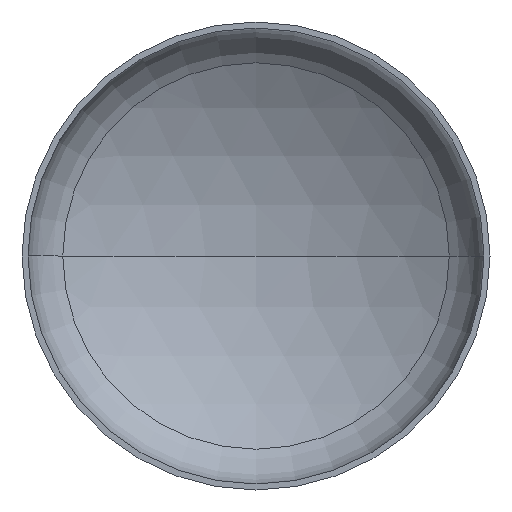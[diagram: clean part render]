
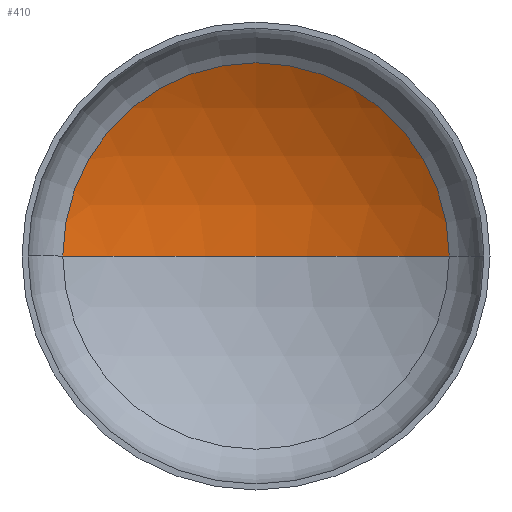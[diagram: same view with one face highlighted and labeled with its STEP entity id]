
A CAD part, front view. The second image highlights one B-rep face of the part: STEP entity #410.
In plain terms, the highlighted spherical face has radius 2240 mm.
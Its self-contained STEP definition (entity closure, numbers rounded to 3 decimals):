
#15 = DIRECTION ( 'NONE',  ( 1., 0., 0. ) ) ;
#18 = DIRECTION ( 'NONE',  ( 0., 0., 1. ) ) ;
#22 = CARTESIAN_POINT ( 'NONE',  ( 0., -1440.401, 0. ) ) ;
#24 = VERTEX_POINT ( 'NONE', #275 ) ;
#38 = ORIENTED_EDGE ( 'NONE', *, *, #125, .F. ) ;
#61 = AXIS2_PLACEMENT_3D ( 'NONE', #22, #18, #15 ) ;
#62 = AXIS2_PLACEMENT_3D ( 'NONE', #179, #181, #185 ) ;
#63 = AXIS2_PLACEMENT_3D ( 'NONE', #213, #216, #199 ) ;
#105 = EDGE_CURVE ( 'NONE', #330, #404, #257, .T. ) ;
#107 = EDGE_CURVE ( 'NONE', #24, #330, #184, .T. ) ;
#114 = FACE_OUTER_BOUND ( 'NONE', #304, .T. ) ;
#123 = CARTESIAN_POINT ( 'NONE',  ( 1155.89, 478.327, 0. ) ) ;
#125 = EDGE_CURVE ( 'NONE', #24, #404, #249, .T. ) ;
#175 = DIRECTION ( 'NONE',  ( -1., 0., 0. ) ) ;
#179 = CARTESIAN_POINT ( 'NONE',  ( 0., -1440.401, 0. ) ) ;
#181 = DIRECTION ( 'NONE',  ( 0., 0., -1. ) ) ;
#184 = CIRCLE ( 'NONE', #62, 2240. ) ;
#185 = DIRECTION ( 'NONE',  ( -1., 0., 0. ) ) ;
#199 = DIRECTION ( 'NONE',  ( 1., 0., 0. ) ) ;
#204 = CARTESIAN_POINT ( 'NONE',  ( -1155.89, 478.327, 0. ) ) ;
#213 = CARTESIAN_POINT ( 'NONE',  ( 0., 478.327, 0. ) ) ;
#216 = DIRECTION ( 'NONE',  ( 0., -1., 0. ) ) ;
#232 = ORIENTED_EDGE ( 'NONE', *, *, #105, .T. ) ;
#249 = CIRCLE ( 'NONE', #61, 2240. ) ;
#257 = CIRCLE ( 'NONE', #63, 1155.89 ) ;
#275 = CARTESIAN_POINT ( 'NONE',  ( 0., 799.599, 0. ) ) ;
#292 = DIRECTION ( 'NONE',  ( 0., 0., -1. ) ) ;
#304 = EDGE_LOOP ( 'NONE', ( #38, #339, #232 ) ) ;
#330 = VERTEX_POINT ( 'NONE', #123 ) ;
#339 = ORIENTED_EDGE ( 'NONE', *, *, #107, .T. ) ;
#347 = CARTESIAN_POINT ( 'NONE',  ( 0., -1440.401, 0. ) ) ;
#397 = SPHERICAL_SURFACE ( 'NONE', #411, 2240. ) ;
#404 = VERTEX_POINT ( 'NONE', #204 ) ;
#410 = ADVANCED_FACE ( 'NONE', ( #114 ), #397, .F. ) ;
#411 = AXIS2_PLACEMENT_3D ( 'NONE', #347, #292, #175 ) ;
